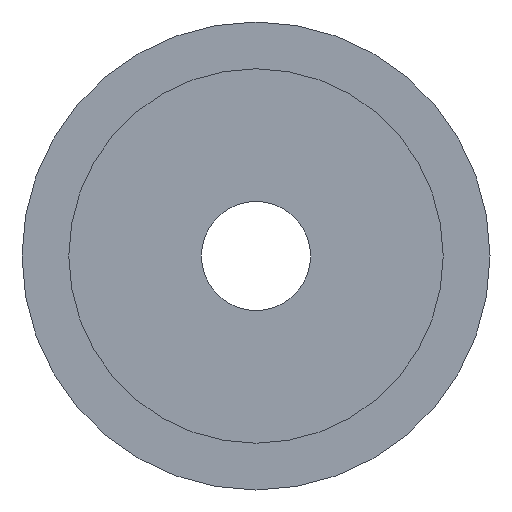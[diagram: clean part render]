
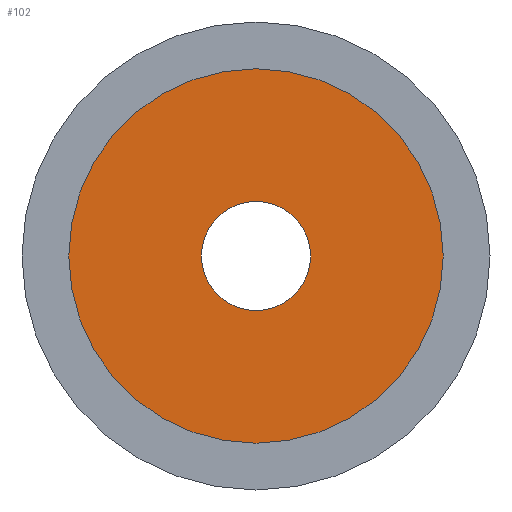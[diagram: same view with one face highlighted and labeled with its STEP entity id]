
A CAD part, left-side view. The second image highlights one B-rep face of the part: STEP entity #102.
In plain terms, the highlighted planar face has unit normal (-1, 0, 0).
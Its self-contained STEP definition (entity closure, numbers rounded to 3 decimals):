
#69 = VERTEX_POINT ( 'NONE', #225 ) ;
#77 = VERTEX_POINT ( 'NONE', #207 ) ;
#79 = EDGE_CURVE ( 'NONE', #80, #77, #206, .T. ) ;
#80 = VERTEX_POINT ( 'NONE', #201 ) ;
#87 = EDGE_CURVE ( 'NONE', #69, #88, #151, .T. ) ;
#88 = VERTEX_POINT ( 'NONE', #146 ) ;
#102 = ADVANCED_FACE ( 'NONE', ( #185, #184 ), #183, .F. ) ;
#103 = EDGE_LOOP ( 'NONE', ( #104, #106 ) ) ;
#104 = ORIENTED_EDGE ( 'NONE', *, *, #105, .F. ) ;
#105 = EDGE_CURVE ( 'NONE', #88, #69, #178, .T. ) ;
#106 = ORIENTED_EDGE ( 'NONE', *, *, #87, .F. ) ;
#107 = EDGE_LOOP ( 'NONE', ( #108, #109 ) ) ;
#108 = ORIENTED_EDGE ( 'NONE', *, *, #79, .T. ) ;
#109 = ORIENTED_EDGE ( 'NONE', *, *, #110, .T. ) ;
#110 = EDGE_CURVE ( 'NONE', #77, #80, #173, .T. ) ;
#146 = CARTESIAN_POINT ( 'NONE',  ( 0., 0., 12. ) ) ;
#147 = DIRECTION ( 'NONE',  ( 0., 0., -1. ) ) ;
#148 = DIRECTION ( 'NONE',  ( 1., 0., 0. ) ) ;
#149 = CARTESIAN_POINT ( 'NONE',  ( 0., 0., 0. ) ) ;
#150 = AXIS2_PLACEMENT_3D ( 'NONE', #149, #148, #147 ) ;
#151 = CIRCLE ( 'NONE', #150, 12. ) ;
#169 = DIRECTION ( 'NONE',  ( 0., 0., -1. ) ) ;
#170 = DIRECTION ( 'NONE',  ( 1., 0., 0. ) ) ;
#171 = CARTESIAN_POINT ( 'NONE',  ( 0., 0., 0. ) ) ;
#172 = AXIS2_PLACEMENT_3D ( 'NONE', #171, #170, #169 ) ;
#173 = CIRCLE ( 'NONE', #172, 3.5 ) ;
#174 = DIRECTION ( 'NONE',  ( 0., 0., -1. ) ) ;
#175 = DIRECTION ( 'NONE',  ( 1., 0., 0. ) ) ;
#176 = CARTESIAN_POINT ( 'NONE',  ( 0., 0., 0. ) ) ;
#177 = AXIS2_PLACEMENT_3D ( 'NONE', #176, #175, #174 ) ;
#178 = CIRCLE ( 'NONE', #177, 12. ) ;
#179 = DIRECTION ( 'NONE',  ( 0., 0., -1. ) ) ;
#180 = DIRECTION ( 'NONE',  ( 1., 0., 0. ) ) ;
#181 = CARTESIAN_POINT ( 'NONE',  ( 0., 0., 0. ) ) ;
#182 = AXIS2_PLACEMENT_3D ( 'NONE', #181, #180, #179 ) ;
#183 = PLANE ( 'NONE',  #182 ) ;
#184 = FACE_BOUND ( 'NONE', #107, .T. ) ;
#185 = FACE_OUTER_BOUND ( 'NONE', #103, .T. ) ;
#201 = CARTESIAN_POINT ( 'NONE',  ( 0., 0., 3.5 ) ) ;
#202 = DIRECTION ( 'NONE',  ( 0., 0., -1. ) ) ;
#203 = DIRECTION ( 'NONE',  ( 1., 0., 0. ) ) ;
#204 = CARTESIAN_POINT ( 'NONE',  ( 0., 0., 0. ) ) ;
#205 = AXIS2_PLACEMENT_3D ( 'NONE', #204, #203, #202 ) ;
#206 = CIRCLE ( 'NONE', #205, 3.5 ) ;
#207 = CARTESIAN_POINT ( 'NONE',  ( 0., 0., -3.5 ) ) ;
#225 = CARTESIAN_POINT ( 'NONE',  ( 0., 0., -12. ) ) ;
